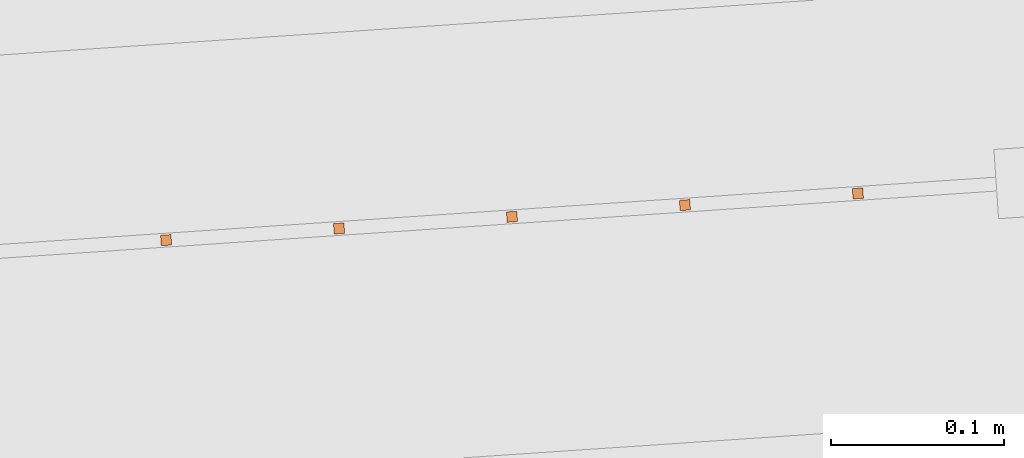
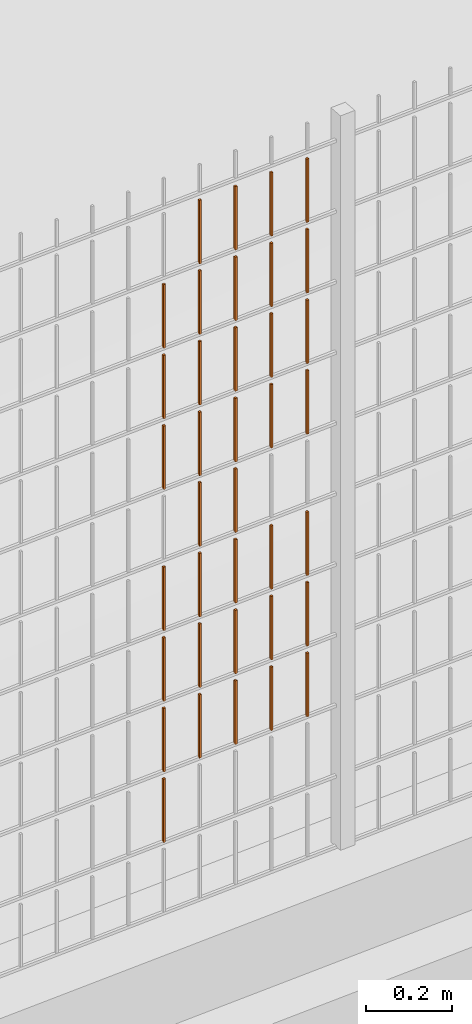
# One storey, part 161 of 1809: 37 proxies, 1 element without a shape of its own.
"""IFC2X3 building model written with IfcOpenShell, lengths in millimetres."""

from ifc_helpers import new_model, entity, si_unit, converted_unit, derived_unit, money_unit, direction, frame, origin_with_axes, place, context, subcontext, project, spatial, faceted_brep, source, transform, mapped, material, type_object, element, aggregate, save


model = new_model("IFC2X3")

# Units and contexts
model_context = context("Model", 3, precision=0.01, world=origin_with_axes(), true_north=direction((0.0, 1.0)))
body_context = subcontext(model_context, "Body", "Model", "MODEL_VIEW")
ifc_project = project(units=[si_unit("LENGTHUNIT", "METRE", prefix="MILLI"), si_unit("AREAUNIT", "SQUARE_METRE"), si_unit("VOLUMEUNIT", "CUBIC_METRE"), converted_unit("PLANEANGLEUNIT", "DEGREE", entity("IfcPlaneAngleMeasure", 0.0174532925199), si_unit("PLANEANGLEUNIT", "RADIAN"), dimensions=[0, 0, 0, 0, 0, 0, 0]), si_unit("SOLIDANGLEUNIT", "STERADIAN"), money_unit("EUR"), converted_unit("TIMEUNIT", "Year", entity("IfcTimeMeasure", 31556926.0), si_unit("TIMEUNIT", "SECOND"), dimensions=[0, 0, 1, 0, 0, 0, 0]), si_unit("MASSUNIT", "GRAM", prefix="KILO"), si_unit("THERMODYNAMICTEMPERATUREUNIT", "DEGREE_CELSIUS"), si_unit("LUMINOUSINTENSITYUNIT", "LUMEN"), si_unit("ENERGYUNIT", "JOULE", prefix="MEGA"), derived_unit("THERMALCONDUCTANCEUNIT", [(si_unit("POWERUNIT", "WATT"), 1), (si_unit("LENGTHUNIT", "METRE"), -1), (si_unit("THERMODYNAMICTEMPERATUREUNIT", "KELVIN"), -1)]), derived_unit("SPECIFICHEATCAPACITYUNIT", [(si_unit("ENERGYUNIT", "JOULE"), 1), (si_unit("MASSUNIT", "GRAM", prefix="KILO"), -1), (si_unit("THERMODYNAMICTEMPERATUREUNIT", "KELVIN"), -1)]), derived_unit("MASSDENSITYUNIT", [(si_unit("MASSUNIT", "GRAM", prefix="KILO"), 1), (si_unit("VOLUMEUNIT", "CUBIC_METRE"), -1)])], contexts=[model_context])

# Site, building, storey
site_placement = place(None, origin_with_axes())
site = spatial("IfcSite", under=ifc_project, at=site_placement, Name="Politse- ja Piirivalveameti ning Päästeameti ühishoone", CompositionType="ELEMENT")
building_placement = place(site_placement, origin_with_axes())
building = spatial("IfcBuilding", under=site, at=building_placement, Name="Politse- ja Piirivalveameti ning Päästeameti ühishoone", CompositionType="ELEMENT")
storey_placement = place(building_placement, origin_with_axes())
storey = spatial("IfcBuildingStorey", under=building, at=storey_placement, Name="Esimene korrus", CompositionType="ELEMENT", Elevation=0.0)

# Proxies
building_element_proxy_type_1 = type_object("IfcBuildingElementProxyType", Name="Railing Type", PredefinedType="NOTDEFINED")
proxy_1_placement = place(storey_placement, frame((89252.001212, -29183.4766571, 203.661247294), z_axis=(0.0, 0.0, 1.0), x_axis=(1.0, 0.0, 0.0)))
proxy_1 = element("IfcBuildingElementProxy", 1, at=proxy_1_placement, inside=storey, type_object=building_element_proxy_type_1, Name="PIIRDEAED")
ifc_material = material(Name="ET-03_Raud")
building_element_proxy_type_2 = type_object("IfcBuildingElementProxyType", Name="IfcBuildingElementProxy", PredefinedType="NOTDEFINED")
shared_shape_1 = source(origin_with_axes(), body_context, "Body", "Brep", [
    faceted_brep([(3.0, 3.0, -0.000752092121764), (-3.0, 3.0, -0.000752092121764), (-3.0, 3.0, 179.99926046), (3.0, 3.0, 179.99926046), (3.0, -3.0, 0.000752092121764), (-3.0, -3.0, 0.000752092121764), (-3.0, -3.0, 180.000764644), (3.0, -3.0, 180.000764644)], [[[0, 1, 2, 3]], [[0, 4, 5, 1]], [[1, 5, 6, 2]], [[3, 2, 6, 7]], [[4, 0, 3, 7]], [[5, 4, 7, 6]]]),
])
proxy_2_placement = place(proxy_1_placement, frame((-79744.9770608, -22684.2470154, 807.19697473), z_axis=(0.0, 0.0, 1.0), x_axis=(1.0, 0.0, 0.0)))
proxy_2 = element("IfcBuildingElementProxy", 2, at=proxy_2_placement, type_object=building_element_proxy_type_2, material=ifc_material, Name="BALUSTER - 001", context=body_context, shape_type="MappedRepresentation", body=[
    mapped(shared_shape_1, transform((0.0, 0.0, 0.0), x_axis=(-0.0673926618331, 0.997726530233, 0.0), y_axis=(-0.997726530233, -0.0673926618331, 0.0), z_axis=(0.0, 0.0, 1.0))),
])
proxy_3_placement = place(proxy_1_placement, frame((-79744.9770608, -22684.2470154, 1207.19697473), z_axis=(0.0, 0.0, 1.0), x_axis=(1.0, 0.0, 0.0)))
proxy_3 = element("IfcBuildingElementProxy", 3, at=proxy_3_placement, type_object=building_element_proxy_type_2, material=ifc_material, Name="BALUSTER - 001", context=body_context, shape_type="MappedRepresentation", body=[
    mapped(shared_shape_1, transform((0.0, 0.0, 0.0), x_axis=(-0.0673926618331, 0.997726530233, 0.0), y_axis=(-0.997726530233, -0.0673926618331, 0.0), z_axis=(0.0, 0.0, 1.0))),
])
shared_shape_2 = source(origin_with_axes(), body_context, "Body", "Brep", [
    faceted_brep([(3.0, 3.0, -0.000752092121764), (-3.0, 3.0, -0.000752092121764), (-3.0, 3.0, 179.99926046), (3.0, 3.0, 179.99926046), (3.0, -3.0, 0.000752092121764), (-3.0, -3.0, 0.000752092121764), (-3.0, -3.0, 180.000764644), (3.0, -3.0, 180.000764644)], [[[0, 1, 2, 3]], [[0, 4, 5, 1]], [[1, 5, 6, 2]], [[3, 2, 6, 7]], [[4, 0, 3, 7]], [[5, 4, 7, 6]]]),
])
proxy_4_placement = place(proxy_1_placement, frame((-79744.9770608, -22684.2470154, 1407.19697473), z_axis=(0.0, 0.0, 1.0), x_axis=(1.0, 0.0, 0.0)))
proxy_4 = element("IfcBuildingElementProxy", 4, at=proxy_4_placement, type_object=building_element_proxy_type_2, material=ifc_material, Name="BALUSTER - 001", context=body_context, shape_type="MappedRepresentation", body=[
    mapped(shared_shape_2, transform((0.0, 0.0, 0.0), x_axis=(-0.0673926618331, 0.997726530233, 0.0), y_axis=(-0.997726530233, -0.0673926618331, 0.0), z_axis=(0.0, 0.0, 1.0))),
])
proxy_5_placement = place(proxy_1_placement, frame((-79744.9770608, -22684.2470154, 1607.19697473), z_axis=(0.0, 0.0, 1.0), x_axis=(1.0, 0.0, 0.0)))
proxy_5 = element("IfcBuildingElementProxy", 5, at=proxy_5_placement, type_object=building_element_proxy_type_2, material=ifc_material, Name="BALUSTER - 001", context=body_context, shape_type="MappedRepresentation", body=[
    mapped(shared_shape_2, transform((0.0, 0.0, 0.0), x_axis=(-0.0673926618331, 0.997726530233, 0.0), y_axis=(-0.997726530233, -0.0673926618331, 0.0), z_axis=(0.0, 0.0, 1.0))),
])
shared_shape_3 = source(origin_with_axes(), body_context, "Body", "Brep", [
    faceted_brep([(3.0, 3.0, -0.000752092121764), (-3.0, 3.0, -0.000752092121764), (-3.0, 3.0, 179.99926046), (3.0, 3.0, 179.99926046), (3.0, -3.0, 0.000752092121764), (-3.0, -3.0, 0.000752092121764), (-3.0, -3.0, 180.000764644), (3.0, -3.0, 180.000764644)], [[[0, 1, 2, 3]], [[0, 4, 5, 1]], [[1, 5, 6, 2]], [[3, 2, 6, 7]], [[4, 0, 3, 7]], [[5, 4, 7, 6]]]),
])
proxy_6_placement = place(proxy_1_placement, frame((-79744.9770608, -22684.2470154, 1807.19697473), z_axis=(0.0, 0.0, 1.0), x_axis=(1.0, 0.0, 0.0)))
proxy_6 = element("IfcBuildingElementProxy", 6, at=proxy_6_placement, type_object=building_element_proxy_type_2, material=ifc_material, Name="BALUSTER - 001", context=body_context, shape_type="MappedRepresentation", body=[
    mapped(shared_shape_3, transform((0.0, 0.0, 0.0), x_axis=(-0.0673926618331, 0.997726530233, 0.0), y_axis=(-0.997726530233, -0.0673926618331, 0.0), z_axis=(0.0, 0.0, 1.0))),
])
shared_shape_4 = source(origin_with_axes(), body_context, "Body", "Brep", [
    faceted_brep([(3.0, 3.0, -0.000752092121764), (-3.0, 3.0, -0.000752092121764), (-3.0, 3.0, 179.99926046), (3.0, 3.0, 179.99926046), (3.0, -3.0, 0.000752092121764), (-3.0, -3.0, 0.000752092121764), (-3.0, -3.0, 180.000764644), (3.0, -3.0, 180.000764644)], [[[0, 1, 2, 3]], [[0, 4, 5, 1]], [[1, 5, 6, 2]], [[3, 2, 6, 7]], [[4, 0, 3, 7]], [[5, 4, 7, 6]]]),
])
proxy_7_placement = place(proxy_1_placement, frame((-79744.9770608, -22684.2470154, 407.19697473), z_axis=(0.0, 0.0, 1.0), x_axis=(1.0, 0.0, 0.0)))
proxy_7 = element("IfcBuildingElementProxy", 7, at=proxy_7_placement, type_object=building_element_proxy_type_2, material=ifc_material, Name="BALUSTER - 001", context=body_context, shape_type="MappedRepresentation", body=[
    mapped(shared_shape_4, transform((0.0, 0.0, 0.0), x_axis=(-0.0673926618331, 0.997726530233, 0.0), y_axis=(-0.997726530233, -0.0673926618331, 0.0), z_axis=(0.0, 0.0, 1.0))),
])
proxy_8_placement = place(proxy_1_placement, frame((-79744.9770608, -22684.2470154, 607.19697473), z_axis=(0.0, 0.0, 1.0), x_axis=(1.0, 0.0, 0.0)))
proxy_8 = element("IfcBuildingElementProxy", 8, at=proxy_8_placement, type_object=building_element_proxy_type_2, material=ifc_material, Name="BALUSTER - 001", context=body_context, shape_type="MappedRepresentation", body=[
    mapped(shared_shape_4, transform((0.0, 0.0, 0.0), x_axis=(-0.0673926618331, 0.997726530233, 0.0), y_axis=(-0.997726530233, -0.0673926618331, 0.0), z_axis=(0.0, 0.0, 1.0))),
])
shared_shape_5 = source(origin_with_axes(), body_context, "Body", "Brep", [
    faceted_brep([(3.0, 3.0, -0.000752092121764), (-3.0, 3.0, -0.000752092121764), (-3.0, 3.0, 179.99926046), (3.0, 3.0, 179.99926046), (3.0, -3.0, 0.000752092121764), (-3.0, -3.0, 0.000752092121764), (-3.0, -3.0, 180.000764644), (3.0, -3.0, 180.000764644)], [[[0, 1, 2, 3]], [[0, 4, 5, 1]], [[1, 5, 6, 2]], [[3, 2, 6, 7]], [[4, 0, 3, 7]], [[5, 4, 7, 6]]]),
])
proxy_9_placement = place(proxy_1_placement, frame((-79844.7497138, -22690.9862816, 607.171904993), z_axis=(0.0, 0.0, 1.0), x_axis=(1.0, 0.0, 0.0)))
proxy_9 = element("IfcBuildingElementProxy", 9, at=proxy_9_placement, type_object=building_element_proxy_type_2, material=ifc_material, Name="BALUSTER - 001", context=body_context, shape_type="MappedRepresentation", body=[
    mapped(shared_shape_5, transform((0.0, 0.0, 0.0), x_axis=(-0.0673926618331, 0.997726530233, 0.0), y_axis=(-0.997726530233, -0.0673926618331, 0.0), z_axis=(0.0, 0.0, 1.0))),
])
shared_shape_6 = source(origin_with_axes(), body_context, "Body", "Brep", [
    faceted_brep([(3.0, 3.0, -0.000752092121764), (-3.0, 3.0, -0.000752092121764), (-3.0, 3.0, 179.99926046), (3.0, 3.0, 179.99926046), (3.0, -3.0, 0.000752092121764), (-3.0, -3.0, 0.000752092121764), (-3.0, -3.0, 180.000764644), (3.0, -3.0, 180.000764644)], [[[0, 1, 2, 3]], [[0, 4, 5, 1]], [[1, 5, 6, 2]], [[3, 2, 6, 7]], [[4, 0, 3, 7]], [[5, 4, 7, 6]]]),
])
proxy_10_placement = place(proxy_1_placement, frame((-79844.7497138, -22690.9862816, 407.171904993), z_axis=(0.0, 0.0, 1.0), x_axis=(1.0, 0.0, 0.0)))
proxy_10 = element("IfcBuildingElementProxy", 10, at=proxy_10_placement, type_object=building_element_proxy_type_2, material=ifc_material, Name="BALUSTER - 001", context=body_context, shape_type="MappedRepresentation", body=[
    mapped(shared_shape_6, transform((0.0, 0.0, 0.0), x_axis=(-0.0673926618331, 0.997726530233, 0.0), y_axis=(-0.997726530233, -0.0673926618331, 0.0), z_axis=(0.0, 0.0, 1.0))),
])
shared_shape_7 = source(origin_with_axes(), body_context, "Body", "Brep", [
    faceted_brep([(3.0, 3.0, -0.000752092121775), (-3.0, 3.0, -0.000752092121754), (-3.0, 3.0, 179.99926046), (3.0, 3.0, 179.99926046), (3.0, -3.0, 0.000752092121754), (-3.0, -3.0, 0.000752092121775), (-3.0, -3.0, 180.000764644), (3.0, -3.0, 180.000764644)], [[[0, 1, 2, 3]], [[0, 4, 5, 1]], [[1, 5, 6, 2]], [[3, 2, 6, 7]], [[4, 0, 3, 7]], [[5, 4, 7, 6]]]),
])
proxy_11_placement = place(proxy_1_placement, frame((-79944.5223669, -22697.7255477, 1807.14683526), z_axis=(0.0, 0.0, 1.0), x_axis=(1.0, 0.0, 0.0)))
proxy_11 = element("IfcBuildingElementProxy", 11, at=proxy_11_placement, type_object=building_element_proxy_type_2, material=ifc_material, Name="BALUSTER - 001", context=body_context, shape_type="MappedRepresentation", body=[
    mapped(shared_shape_7, transform((0.0, 0.0, 0.0), x_axis=(-0.0673926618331, 0.997726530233, 0.0), y_axis=(-0.997726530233, -0.0673926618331, 0.0), z_axis=(0.0, 0.0, 1.0))),
])
shared_shape_8 = source(origin_with_axes(), body_context, "Body", "Brep", [
    faceted_brep([(3.0, 3.0, -0.000752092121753), (-3.0, 3.0, -0.000752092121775), (-3.0, 3.0, 179.99926046), (3.0, 3.0, 179.99926046), (3.0, -3.0, 0.000752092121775), (-3.0, -3.0, 0.000752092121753), (-3.0, -3.0, 180.000764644), (3.0, -3.0, 180.000764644)], [[[0, 1, 2, 3]], [[0, 4, 5, 1]], [[1, 5, 6, 2]], [[3, 2, 6, 7]], [[4, 0, 3, 7]], [[5, 4, 7, 6]]]),
])
proxy_12_placement = place(proxy_1_placement, frame((-80044.2950199, -22704.4648139, 607.121765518), z_axis=(0.0, 0.0, 1.0), x_axis=(1.0, 0.0, 0.0)))
proxy_12 = element("IfcBuildingElementProxy", 12, at=proxy_12_placement, type_object=building_element_proxy_type_2, material=ifc_material, Name="BALUSTER - 001", context=body_context, shape_type="MappedRepresentation", body=[
    mapped(shared_shape_8, transform((0.0, 0.0, 0.0), x_axis=(-0.0673926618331, 0.997726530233, 0.0), y_axis=(-0.997726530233, -0.0673926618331, 0.0), z_axis=(0.0, 0.0, 1.0))),
])
proxy_13_placement = place(proxy_1_placement, frame((-79944.5223669, -22697.7255477, 807.146835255), z_axis=(0.0, 0.0, 1.0), x_axis=(1.0, 0.0, 0.0)))
proxy_13 = element("IfcBuildingElementProxy", 13, at=proxy_13_placement, type_object=building_element_proxy_type_2, material=ifc_material, Name="BALUSTER - 001", context=body_context, shape_type="MappedRepresentation", body=[
    mapped(shared_shape_8, transform((0.0, 0.0, 0.0), x_axis=(-0.0673926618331, 0.997726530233, 0.0), y_axis=(-0.997726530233, -0.0673926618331, 0.0), z_axis=(0.0, 0.0, 1.0))),
])
proxy_14_placement = place(proxy_1_placement, frame((-80044.2950199, -22704.4648139, 807.121765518), z_axis=(0.0, 0.0, 1.0), x_axis=(1.0, 0.0, 0.0)))
proxy_14 = element("IfcBuildingElementProxy", 14, at=proxy_14_placement, type_object=building_element_proxy_type_2, material=ifc_material, Name="BALUSTER - 001", context=body_context, shape_type="MappedRepresentation", body=[
    mapped(shared_shape_8, transform((0.0, 0.0, 0.0), x_axis=(-0.0673926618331, 0.997726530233, 0.0), y_axis=(-0.997726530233, -0.0673926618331, 0.0), z_axis=(0.0, 0.0, 1.0))),
])
proxy_15_placement = place(proxy_1_placement, frame((-80044.2950199, -22704.4648139, 1207.12176552), z_axis=(0.0, 0.0, 1.0), x_axis=(1.0, 0.0, 0.0)))
proxy_15 = element("IfcBuildingElementProxy", 15, at=proxy_15_placement, type_object=building_element_proxy_type_2, material=ifc_material, Name="BALUSTER - 001", context=body_context, shape_type="MappedRepresentation", body=[
    mapped(shared_shape_8, transform((0.0, 0.0, 0.0), x_axis=(-0.0673926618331, 0.997726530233, 0.0), y_axis=(-0.997726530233, -0.0673926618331, 0.0), z_axis=(0.0, 0.0, 1.0))),
])
shared_shape_9 = source(origin_with_axes(), body_context, "Body", "Brep", [
    faceted_brep([(3.0, 3.0, -0.000752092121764), (-3.0, 3.0, -0.000752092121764), (-3.0, 3.0, 179.99926046), (3.0, 3.0, 179.99926046), (3.0, -3.0, 0.000752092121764), (-3.0, -3.0, 0.000752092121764), (-3.0, -3.0, 180.000764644), (3.0, -3.0, 180.000764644)], [[[0, 1, 2, 3]], [[0, 4, 5, 1]], [[1, 5, 6, 2]], [[3, 2, 6, 7]], [[4, 0, 3, 7]], [[5, 4, 7, 6]]]),
])
proxy_16_placement = place(proxy_1_placement, frame((-79844.7497138, -22690.9862816, 807.171904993), z_axis=(0.0, 0.0, 1.0), x_axis=(1.0, 0.0, 0.0)))
proxy_16 = element("IfcBuildingElementProxy", 16, at=proxy_16_placement, type_object=building_element_proxy_type_2, material=ifc_material, Name="BALUSTER - 001", context=body_context, shape_type="MappedRepresentation", body=[
    mapped(shared_shape_9, transform((0.0, 0.0, 0.0), x_axis=(-0.0673926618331, 0.997726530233, 0.0), y_axis=(-0.997726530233, -0.0673926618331, 0.0), z_axis=(0.0, 0.0, 1.0))),
])
shared_shape_10 = source(origin_with_axes(), body_context, "Body", "Brep", [
    faceted_brep([(3.0, 3.0, -0.000752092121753), (-3.0, 3.0, -0.000752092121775), (-3.0, 3.0, 179.99926046), (3.0, 3.0, 179.99926046), (3.0, -3.0, 0.000752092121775), (-3.0, -3.0, 0.000752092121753), (-3.0, -3.0, 180.000764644), (3.0, -3.0, 180.000764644)], [[[0, 1, 2, 3]], [[0, 4, 5, 1]], [[1, 5, 6, 2]], [[3, 2, 6, 7]], [[4, 0, 3, 7]], [[5, 4, 7, 6]]]),
])
proxy_17_placement = place(proxy_1_placement, frame((-79944.5223669, -22697.7255477, 607.146835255), z_axis=(0.0, 0.0, 1.0), x_axis=(1.0, 0.0, 0.0)))
proxy_17 = element("IfcBuildingElementProxy", 17, at=proxy_17_placement, type_object=building_element_proxy_type_2, material=ifc_material, Name="BALUSTER - 001", context=body_context, shape_type="MappedRepresentation", body=[
    mapped(shared_shape_10, transform((0.0, 0.0, 0.0), x_axis=(-0.0673926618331, 0.997726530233, 0.0), y_axis=(-0.997726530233, -0.0673926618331, 0.0), z_axis=(0.0, 0.0, 1.0))),
])
proxy_18_placement = place(proxy_1_placement, frame((-79844.7497138, -22690.9862816, 1207.17190499), z_axis=(0.0, 0.0, 1.0), x_axis=(1.0, 0.0, 0.0)))
proxy_18 = element("IfcBuildingElementProxy", 18, at=proxy_18_placement, type_object=building_element_proxy_type_2, material=ifc_material, Name="BALUSTER - 001", context=body_context, shape_type="MappedRepresentation", body=[
    mapped(shared_shape_10, transform((0.0, 0.0, 0.0), x_axis=(-0.0673926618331, 0.997726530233, 0.0), y_axis=(-0.997726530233, -0.0673926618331, 0.0), z_axis=(0.0, 0.0, 1.0))),
])
proxy_19_placement = place(proxy_1_placement, frame((-80044.2950199, -22704.4648139, 1807.12176552), z_axis=(0.0, 0.0, 1.0), x_axis=(1.0, 0.0, 0.0)))
proxy_19 = element("IfcBuildingElementProxy", 19, at=proxy_19_placement, type_object=building_element_proxy_type_2, material=ifc_material, Name="BALUSTER - 001", context=body_context, shape_type="MappedRepresentation", body=[
    mapped(shared_shape_10, transform((0.0, 0.0, 0.0), x_axis=(-0.0673926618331, 0.997726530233, 0.0), y_axis=(-0.997726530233, -0.0673926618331, 0.0), z_axis=(0.0, 0.0, 1.0))),
])
shared_shape_11 = source(origin_with_axes(), body_context, "Body", "Brep", [
    faceted_brep([(3.0, 3.0, -0.000752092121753), (-3.0, 3.0, -0.000752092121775), (-3.0, 3.0, 179.99926046), (3.0, 3.0, 179.99926046), (3.0, -3.0, 0.000752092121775), (-3.0, -3.0, 0.000752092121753), (-3.0, -3.0, 180.000764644), (3.0, -3.0, 180.000764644)], [[[0, 1, 2, 3]], [[0, 4, 5, 1]], [[1, 5, 6, 2]], [[3, 2, 6, 7]], [[4, 0, 3, 7]], [[5, 4, 7, 6]]]),
])
proxy_20_placement = place(proxy_1_placement, frame((-80044.2950199, -22704.4648139, 1407.12176552), z_axis=(0.0, 0.0, 1.0), x_axis=(1.0, 0.0, 0.0)))
proxy_20 = element("IfcBuildingElementProxy", 20, at=proxy_20_placement, type_object=building_element_proxy_type_2, material=ifc_material, Name="BALUSTER - 001", context=body_context, shape_type="MappedRepresentation", body=[
    mapped(shared_shape_11, transform((0.0, 0.0, 0.0), x_axis=(-0.0673926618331, 0.997726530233, 0.0), y_axis=(-0.997726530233, -0.0673926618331, 0.0), z_axis=(0.0, 0.0, 1.0))),
])
proxy_21_placement = place(proxy_1_placement, frame((-80044.2950199, -22704.4648139, 1607.12176552), z_axis=(0.0, 0.0, 1.0), x_axis=(1.0, 0.0, 0.0)))
proxy_21 = element("IfcBuildingElementProxy", 21, at=proxy_21_placement, type_object=building_element_proxy_type_2, material=ifc_material, Name="BALUSTER - 001", context=body_context, shape_type="MappedRepresentation", body=[
    mapped(shared_shape_11, transform((0.0, 0.0, 0.0), x_axis=(-0.0673926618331, 0.997726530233, 0.0), y_axis=(-0.997726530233, -0.0673926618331, 0.0), z_axis=(0.0, 0.0, 1.0))),
])
shared_shape_12 = source(origin_with_axes(), body_context, "Body", "Brep", [
    faceted_brep([(3.0, 3.0, -0.000752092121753), (-3.0, 3.0, -0.000752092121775), (-3.0, 3.0, 179.99926046), (3.0, 3.0, 179.99926046), (3.0, -3.0, 0.000752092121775), (-3.0, -3.0, 0.000752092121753), (-3.0, -3.0, 180.000764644), (3.0, -3.0, 180.000764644)], [[[0, 1, 2, 3]], [[0, 4, 5, 1]], [[1, 5, 6, 2]], [[3, 2, 6, 7]], [[4, 0, 3, 7]], [[5, 4, 7, 6]]]),
])
proxy_22_placement = place(proxy_1_placement, frame((-79844.7497138, -22690.9862816, 1407.17190499), z_axis=(0.0, 0.0, 1.0), x_axis=(1.0, 0.0, 0.0)))
proxy_22 = element("IfcBuildingElementProxy", 22, at=proxy_22_placement, type_object=building_element_proxy_type_2, material=ifc_material, Name="BALUSTER - 001", context=body_context, shape_type="MappedRepresentation", body=[
    mapped(shared_shape_12, transform((0.0, 0.0, 0.0), x_axis=(-0.0673926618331, 0.997726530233, 0.0), y_axis=(-0.997726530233, -0.0673926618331, 0.0), z_axis=(0.0, 0.0, 1.0))),
])
proxy_23_placement = place(proxy_1_placement, frame((-79844.7497138, -22690.9862816, 1607.17190499), z_axis=(0.0, 0.0, 1.0), x_axis=(1.0, 0.0, 0.0)))
proxy_23 = element("IfcBuildingElementProxy", 23, at=proxy_23_placement, type_object=building_element_proxy_type_2, material=ifc_material, Name="BALUSTER - 001", context=body_context, shape_type="MappedRepresentation", body=[
    mapped(shared_shape_12, transform((0.0, 0.0, 0.0), x_axis=(-0.0673926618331, 0.997726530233, 0.0), y_axis=(-0.997726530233, -0.0673926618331, 0.0), z_axis=(0.0, 0.0, 1.0))),
])
shared_shape_13 = source(origin_with_axes(), body_context, "Body", "Brep", [
    faceted_brep([(3.0, 3.0, -0.000752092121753), (-3.0, 3.0, -0.000752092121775), (-3.0, 3.0, 179.99926046), (3.0, 3.0, 179.99926046), (3.0, -3.0, 0.000752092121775), (-3.0, -3.0, 0.000752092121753), (-3.0, -3.0, 180.000764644), (3.0, -3.0, 180.000764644)], [[[0, 1, 2, 3]], [[0, 4, 5, 1]], [[1, 5, 6, 2]], [[3, 2, 6, 7]], [[4, 0, 3, 7]], [[5, 4, 7, 6]]]),
])
proxy_24_placement = place(proxy_1_placement, frame((-79844.7497138, -22690.9862816, 1807.17190499), z_axis=(0.0, 0.0, 1.0), x_axis=(1.0, 0.0, 0.0)))
proxy_24 = element("IfcBuildingElementProxy", 24, at=proxy_24_placement, type_object=building_element_proxy_type_2, material=ifc_material, Name="BALUSTER - 001", context=body_context, shape_type="MappedRepresentation", body=[
    mapped(shared_shape_13, transform((0.0, 0.0, 0.0), x_axis=(-0.0673926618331, 0.997726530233, 0.0), y_axis=(-0.997726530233, -0.0673926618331, 0.0), z_axis=(0.0, 0.0, 1.0))),
])
shared_shape_14 = source(origin_with_axes(), body_context, "Body", "Brep", [
    faceted_brep([(3.0, 3.0, -0.000752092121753), (-3.0, 3.0, -0.000752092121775), (-3.0, 3.0, 179.99926046), (3.0, 3.0, 179.99926046), (3.0, -3.0, 0.000752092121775), (-3.0, -3.0, 0.000752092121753), (-3.0, -3.0, 180.000764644), (3.0, -3.0, 180.000764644)], [[[0, 1, 2, 3]], [[0, 4, 5, 1]], [[1, 5, 6, 2]], [[3, 2, 6, 7]], [[4, 0, 3, 7]], [[5, 4, 7, 6]]]),
])
proxy_25_placement = place(proxy_1_placement, frame((-79944.5223669, -22697.7255477, 407.146835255), z_axis=(0.0, 0.0, 1.0), x_axis=(1.0, 0.0, 0.0)))
proxy_25 = element("IfcBuildingElementProxy", 25, at=proxy_25_placement, type_object=building_element_proxy_type_2, material=ifc_material, Name="BALUSTER - 001", context=body_context, shape_type="MappedRepresentation", body=[
    mapped(shared_shape_14, transform((0.0, 0.0, 0.0), x_axis=(-0.0673926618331, 0.997726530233, 0.0), y_axis=(-0.997726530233, -0.0673926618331, 0.0), z_axis=(0.0, 0.0, 1.0))),
])
proxy_26_placement = place(proxy_1_placement, frame((-80044.2950199, -22704.4648139, 407.121765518), z_axis=(0.0, 0.0, 1.0), x_axis=(1.0, 0.0, 0.0)))
proxy_26 = element("IfcBuildingElementProxy", 26, at=proxy_26_placement, type_object=building_element_proxy_type_2, material=ifc_material, Name="BALUSTER - 001", context=body_context, shape_type="MappedRepresentation", body=[
    mapped(shared_shape_14, transform((0.0, 0.0, 0.0), x_axis=(-0.0673926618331, 0.997726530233, 0.0), y_axis=(-0.997726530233, -0.0673926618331, 0.0), z_axis=(0.0, 0.0, 1.0))),
])
shared_shape_15 = source(origin_with_axes(), body_context, "Body", "Brep", [
    faceted_brep([(3.0, 3.0, -0.000752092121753), (-3.0, 3.0, -0.000752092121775), (-3.0, 3.0, 179.99926046), (3.0, 3.0, 179.99926046), (3.0, -3.0, 0.000752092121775), (-3.0, -3.0, 0.000752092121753), (-3.0, -3.0, 180.000764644), (3.0, -3.0, 180.000764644)], [[[0, 1, 2, 3]], [[0, 4, 5, 1]], [[1, 5, 6, 2]], [[3, 2, 6, 7]], [[4, 0, 3, 7]], [[5, 4, 7, 6]]]),
])
proxy_27_placement = place(proxy_1_placement, frame((-80144.0676729, -22711.2040801, 407.096695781), z_axis=(0.0, 0.0, 1.0), x_axis=(1.0, 0.0, 0.0)))
proxy_27 = element("IfcBuildingElementProxy", 27, at=proxy_27_placement, type_object=building_element_proxy_type_2, material=ifc_material, Name="BALUSTER - 001", context=body_context, shape_type="MappedRepresentation", body=[
    mapped(shared_shape_15, transform((0.0, 0.0, 0.0), x_axis=(-0.0673926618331, 0.997726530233, 0.0), y_axis=(-0.997726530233, -0.0673926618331, 0.0), z_axis=(0.0, 0.0, 1.0))),
])
shared_shape_16 = source(origin_with_axes(), body_context, "Body", "Brep", [
    faceted_brep([(3.0, 3.0, -0.000752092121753), (-3.0, 3.0, -0.000752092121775), (-3.0, 3.0, 179.99926046), (3.0, 3.0, 179.99926046), (3.0, -3.0, 0.000752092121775), (-3.0, -3.0, 0.000752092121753), (-3.0, -3.0, 180.000764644), (3.0, -3.0, 180.000764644)], [[[0, 1, 2, 3]], [[0, 4, 5, 1]], [[1, 5, 6, 2]], [[3, 2, 6, 7]], [[4, 0, 3, 7]], [[5, 4, 7, 6]]]),
])
proxy_28_placement = place(proxy_1_placement, frame((-80144.0676729, -22711.2040801, 207.096695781), z_axis=(0.0, 0.0, 1.0), x_axis=(1.0, 0.0, 0.0)))
proxy_28 = element("IfcBuildingElementProxy", 28, at=proxy_28_placement, type_object=building_element_proxy_type_2, material=ifc_material, Name="BALUSTER - 001", context=body_context, shape_type="MappedRepresentation", body=[
    mapped(shared_shape_16, transform((0.0, 0.0, 0.0), x_axis=(-0.0673926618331, 0.997726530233, 0.0), y_axis=(-0.997726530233, -0.0673926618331, 0.0), z_axis=(0.0, 0.0, 1.0))),
])
proxy_29_placement = place(proxy_1_placement, frame((-80144.0676729, -22711.2040801, 607.096695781), z_axis=(0.0, 0.0, 1.0), x_axis=(1.0, 0.0, 0.0)))
proxy_29 = element("IfcBuildingElementProxy", 29, at=proxy_29_placement, type_object=building_element_proxy_type_2, material=ifc_material, Name="BALUSTER - 001", context=body_context, shape_type="MappedRepresentation", body=[
    mapped(shared_shape_16, transform((0.0, 0.0, 0.0), x_axis=(-0.0673926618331, 0.997726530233, 0.0), y_axis=(-0.997726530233, -0.0673926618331, 0.0), z_axis=(0.0, 0.0, 1.0))),
])
shared_shape_17 = source(origin_with_axes(), body_context, "Body", "Brep", [
    faceted_brep([(3.0, 3.0, -0.000752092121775), (-3.0, 3.0, -0.000752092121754), (-3.0, 3.0, 179.99926046), (3.0, 3.0, 179.99926046), (3.0, -3.0, 0.000752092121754), (-3.0, -3.0, 0.000752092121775), (-3.0, -3.0, 180.000764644), (3.0, -3.0, 180.000764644)], [[[0, 1, 2, 3]], [[0, 4, 5, 1]], [[1, 5, 6, 2]], [[3, 2, 6, 7]], [[4, 0, 3, 7]], [[5, 4, 7, 6]]]),
])
proxy_30_placement = place(proxy_1_placement, frame((-79944.5223669, -22697.7255477, 1207.14683526), z_axis=(0.0, 0.0, 1.0), x_axis=(1.0, 0.0, 0.0)))
proxy_30 = element("IfcBuildingElementProxy", 30, at=proxy_30_placement, type_object=building_element_proxy_type_2, material=ifc_material, Name="BALUSTER - 001", context=body_context, shape_type="MappedRepresentation", body=[
    mapped(shared_shape_17, transform((0.0, 0.0, 0.0), x_axis=(-0.0673926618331, 0.997726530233, 0.0), y_axis=(-0.997726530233, -0.0673926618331, 0.0), z_axis=(0.0, 0.0, 1.0))),
])
shared_shape_18 = source(origin_with_axes(), body_context, "Body", "Brep", [
    faceted_brep([(3.0, 3.0, -0.000752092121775), (-3.0, 3.0, -0.000752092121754), (-3.0, 3.0, 179.99926046), (3.0, 3.0, 179.99926046), (3.0, -3.0, 0.000752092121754), (-3.0, -3.0, 0.000752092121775), (-3.0, -3.0, 180.000764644), (3.0, -3.0, 180.000764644)], [[[0, 1, 2, 3]], [[0, 4, 5, 1]], [[1, 5, 6, 2]], [[3, 2, 6, 7]], [[4, 0, 3, 7]], [[5, 4, 7, 6]]]),
])
proxy_31_placement = place(proxy_1_placement, frame((-79944.5223669, -22697.7255477, 1407.14683526), z_axis=(0.0, 0.0, 1.0), x_axis=(1.0, 0.0, 0.0)))
proxy_31 = element("IfcBuildingElementProxy", 31, at=proxy_31_placement, type_object=building_element_proxy_type_2, material=ifc_material, Name="BALUSTER - 001", context=body_context, shape_type="MappedRepresentation", body=[
    mapped(shared_shape_18, transform((0.0, 0.0, 0.0), x_axis=(-0.0673926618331, 0.997726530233, 0.0), y_axis=(-0.997726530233, -0.0673926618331, 0.0), z_axis=(0.0, 0.0, 1.0))),
])
proxy_32_placement = place(proxy_1_placement, frame((-79944.5223669, -22697.7255477, 1607.14683526), z_axis=(0.0, 0.0, 1.0), x_axis=(1.0, 0.0, 0.0)))
proxy_32 = element("IfcBuildingElementProxy", 32, at=proxy_32_placement, type_object=building_element_proxy_type_2, material=ifc_material, Name="BALUSTER - 001", context=body_context, shape_type="MappedRepresentation", body=[
    mapped(shared_shape_18, transform((0.0, 0.0, 0.0), x_axis=(-0.0673926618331, 0.997726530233, 0.0), y_axis=(-0.997726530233, -0.0673926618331, 0.0), z_axis=(0.0, 0.0, 1.0))),
])
shared_shape_19 = source(origin_with_axes(), body_context, "Body", "Brep", [
    faceted_brep([(3.0, 3.0, -0.000752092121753), (-3.0, 3.0, -0.000752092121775), (-3.0, 3.0, 179.99926046), (3.0, 3.0, 179.99926046), (3.0, -3.0, 0.000752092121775), (-3.0, -3.0, 0.000752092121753), (-3.0, -3.0, 180.000764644), (3.0, -3.0, 180.000764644)], [[[0, 1, 2, 3]], [[0, 4, 5, 1]], [[1, 5, 6, 2]], [[3, 2, 6, 7]], [[4, 0, 3, 7]], [[5, 4, 7, 6]]]),
])
proxy_33_placement = place(proxy_1_placement, frame((-80144.0676729, -22711.2040801, 1207.09669578), z_axis=(0.0, 0.0, 1.0), x_axis=(1.0, 0.0, 0.0)))
proxy_33 = element("IfcBuildingElementProxy", 33, at=proxy_33_placement, type_object=building_element_proxy_type_2, material=ifc_material, Name="BALUSTER - 001", context=body_context, shape_type="MappedRepresentation", body=[
    mapped(shared_shape_19, transform((0.0, 0.0, 0.0), x_axis=(-0.0673926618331, 0.997726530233, 0.0), y_axis=(-0.997726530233, -0.0673926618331, 0.0), z_axis=(0.0, 0.0, 1.0))),
])
shared_shape_20 = source(origin_with_axes(), body_context, "Body", "Brep", [
    faceted_brep([(3.0, 3.0, -0.000752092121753), (-3.0, 3.0, -0.000752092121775), (-3.0, 3.0, 179.99926046), (3.0, 3.0, 179.99926046), (3.0, -3.0, 0.000752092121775), (-3.0, -3.0, 0.000752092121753), (-3.0, -3.0, 180.000764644), (3.0, -3.0, 180.000764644)], [[[0, 1, 2, 3]], [[0, 4, 5, 1]], [[1, 5, 6, 2]], [[3, 2, 6, 7]], [[4, 0, 3, 7]], [[5, 4, 7, 6]]]),
])
proxy_34_placement = place(proxy_1_placement, frame((-80144.0676729, -22711.2040801, 807.096695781), z_axis=(0.0, 0.0, 1.0), x_axis=(1.0, 0.0, 0.0)))
proxy_34 = element("IfcBuildingElementProxy", 34, at=proxy_34_placement, type_object=building_element_proxy_type_2, material=ifc_material, Name="BALUSTER - 001", context=body_context, shape_type="MappedRepresentation", body=[
    mapped(shared_shape_20, transform((0.0, 0.0, 0.0), x_axis=(-0.0673926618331, 0.997726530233, 0.0), y_axis=(-0.997726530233, -0.0673926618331, 0.0), z_axis=(0.0, 0.0, 1.0))),
])
shared_shape_21 = source(origin_with_axes(), body_context, "Body", "Brep", [
    faceted_brep([(3.0, 3.0, -0.000752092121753), (-3.0, 3.0, -0.000752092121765), (-3.00000000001, 3.0, 179.99926046), (2.99999999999, 3.0, 179.99926046), (3.0, -3.0, 0.000752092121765), (-3.0, -3.0, 0.000752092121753), (-3.00000000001, -3.0, 180.000764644), (2.99999999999, -3.0, 180.000764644)], [[[0, 1, 2, 3]], [[0, 4, 5, 1]], [[1, 5, 6, 2]], [[3, 2, 6, 7]], [[4, 0, 3, 7]], [[5, 4, 7, 6]]]),
])
proxy_35_placement = place(proxy_1_placement, frame((-80044.2950199, -22704.4648139, 1007.12176552), z_axis=(0.0, 0.0, 1.0), x_axis=(1.0, 0.0, 0.0)))
proxy_35 = element("IfcBuildingElementProxy", 35, at=proxy_35_placement, type_object=building_element_proxy_type_2, material=ifc_material, Name="BALUSTER - 001", context=body_context, shape_type="MappedRepresentation", body=[
    mapped(shared_shape_21, transform((0.0, 0.0, 0.0), x_axis=(-0.0673926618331, 0.997726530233, 0.0), y_axis=(-0.997726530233, -0.0673926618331, 0.0), z_axis=(0.0, 0.0, 1.0))),
])
shared_shape_22 = source(origin_with_axes(), body_context, "Body", "Brep", [
    faceted_brep([(3.0, 3.0, -0.000752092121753), (-3.0, 3.0, -0.000752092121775), (-3.0, 3.0, 179.99926046), (3.0, 3.0, 179.99926046), (3.0, -3.0, 0.000752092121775), (-3.0, -3.0, 0.000752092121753), (-3.0, -3.0, 180.000764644), (3.0, -3.0, 180.000764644)], [[[0, 1, 2, 3]], [[0, 4, 5, 1]], [[1, 5, 6, 2]], [[3, 2, 6, 7]], [[4, 0, 3, 7]], [[5, 4, 7, 6]]]),
])
proxy_36_placement = place(proxy_1_placement, frame((-80144.0676729, -22711.2040801, 1407.09669578), z_axis=(0.0, 0.0, 1.0), x_axis=(1.0, 0.0, 0.0)))
proxy_36 = element("IfcBuildingElementProxy", 36, at=proxy_36_placement, type_object=building_element_proxy_type_2, material=ifc_material, Name="BALUSTER - 001", context=body_context, shape_type="MappedRepresentation", body=[
    mapped(shared_shape_22, transform((0.0, 0.0, 0.0), x_axis=(-0.0673926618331, 0.997726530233, 0.0), y_axis=(-0.997726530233, -0.0673926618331, 0.0), z_axis=(0.0, 0.0, 1.0))),
])
proxy_37_placement = place(proxy_1_placement, frame((-80144.0676729, -22711.2040801, 1607.09669578), z_axis=(0.0, 0.0, 1.0), x_axis=(1.0, 0.0, 0.0)))
proxy_37 = element("IfcBuildingElementProxy", 37, at=proxy_37_placement, type_object=building_element_proxy_type_2, material=ifc_material, Name="BALUSTER - 001", context=body_context, shape_type="MappedRepresentation", body=[
    mapped(shared_shape_22, transform((0.0, 0.0, 0.0), x_axis=(-0.0673926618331, 0.997726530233, 0.0), y_axis=(-0.997726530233, -0.0673926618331, 0.0), z_axis=(0.0, 0.0, 1.0))),
])
shared_shape_23 = source(origin_with_axes(), body_context, "Body", "Brep", [
    faceted_brep([(3.0, 3.0, -0.000752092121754), (-3.0, 3.0, -0.000752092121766), (-3.00000000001, 3.0, 179.99926046), (2.99999999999, 3.0, 179.99926046), (3.0, -3.0, 0.000752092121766), (-3.0, -3.0, 0.000752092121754), (-3.00000000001, -3.0, 180.000764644), (2.99999999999, -3.0, 180.000764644)], [[[0, 1, 2, 3]], [[0, 4, 5, 1]], [[1, 5, 6, 2]], [[3, 2, 6, 7]], [[4, 0, 3, 7]], [[5, 4, 7, 6]]]),
])
proxy_38_placement = place(proxy_1_placement, frame((-79944.5223669, -22697.7255477, 1007.14683526), z_axis=(0.0, 0.0, 1.0), x_axis=(1.0, 0.0, 0.0)))
proxy_38 = element("IfcBuildingElementProxy", 38, at=proxy_38_placement, type_object=building_element_proxy_type_2, material=ifc_material, Name="BALUSTER - 001", context=body_context, shape_type="MappedRepresentation", body=[
    mapped(shared_shape_23, transform((0.0, 0.0, 0.0), x_axis=(-0.0673926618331, 0.997726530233, 0.0), y_axis=(-0.997726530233, -0.0673926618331, 0.0), z_axis=(0.0, 0.0, 1.0))),
])
aggregate(proxy_1, [proxy_28, proxy_7, proxy_10, proxy_25, proxy_26, proxy_27, proxy_8, proxy_9, proxy_17, proxy_12, proxy_29, proxy_2, proxy_16, proxy_13, proxy_14, proxy_34, proxy_38, proxy_35, proxy_3, proxy_18, proxy_30, proxy_15, proxy_33, proxy_4, proxy_22, proxy_31, proxy_20, proxy_36, proxy_5, proxy_23, proxy_32, proxy_21, proxy_37, proxy_6, proxy_24, proxy_11, proxy_19])

save(model, "model.ifc")
